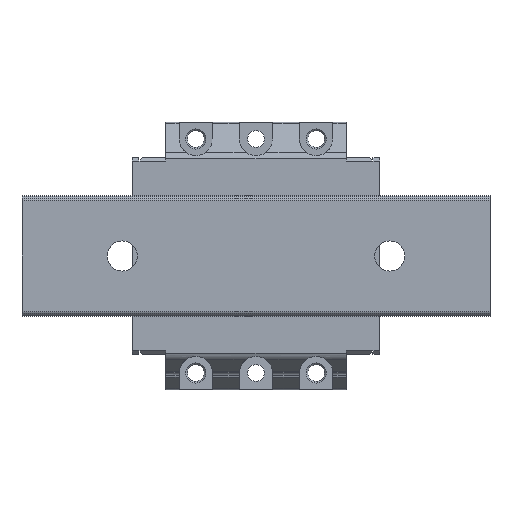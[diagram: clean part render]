
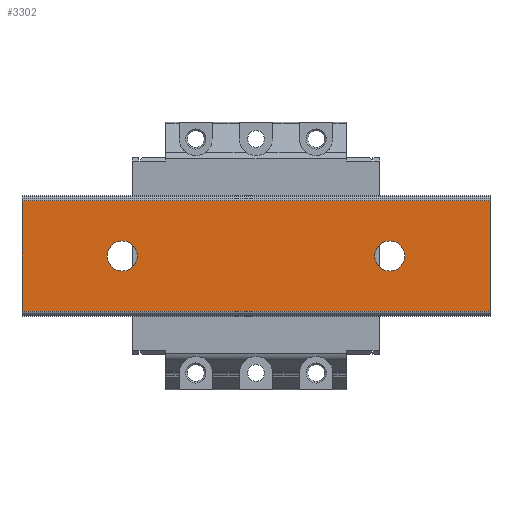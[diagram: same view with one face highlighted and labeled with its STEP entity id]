
A CAD part, front view. The second image highlights one B-rep face of the part: STEP entity #3302.
In plain terms, the highlighted planar face has unit normal (0, -1, 0).
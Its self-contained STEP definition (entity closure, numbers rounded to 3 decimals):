
#95=CIRCLE('',#3527,2.25);
#96=CIRCLE('',#3528,2.25);
#327=ORIENTED_EDGE('',*,*,#1301,.F.);
#328=ORIENTED_EDGE('',*,*,#1302,.F.);
#329=ORIENTED_EDGE('',*,*,#1303,.T.);
#330=ORIENTED_EDGE('',*,*,#1304,.F.);
#331=ORIENTED_EDGE('',*,*,#1305,.F.);
#332=ORIENTED_EDGE('',*,*,#1299,.T.);
#1299=EDGE_CURVE('',#1782,#1781,#2116,.T.);
#1301=EDGE_CURVE('',#1783,#1783,#95,.T.);
#1302=EDGE_CURVE('',#1784,#1784,#96,.T.);
#1303=EDGE_CURVE('',#1781,#1785,#2117,.T.);
#1304=EDGE_CURVE('',#1786,#1785,#2118,.T.);
#1305=EDGE_CURVE('',#1782,#1786,#2119,.T.);
#1781=VERTEX_POINT('',#4918);
#1782=VERTEX_POINT('',#4920);
#1783=VERTEX_POINT('',#4924);
#1784=VERTEX_POINT('',#4926);
#1785=VERTEX_POINT('',#4928);
#1786=VERTEX_POINT('',#4930);
#2116=LINE('',#4919,#2434);
#2117=LINE('',#4927,#2435);
#2118=LINE('',#4929,#2436);
#2119=LINE('',#4931,#2437);
#2434=VECTOR('',#3913,1000.);
#2435=VECTOR('',#3922,1000.);
#2436=VECTOR('',#3923,1000.);
#2437=VECTOR('',#3924,1000.);
#2742=EDGE_LOOP('',(#327));
#2743=EDGE_LOOP('',(#328));
#2744=EDGE_LOOP('',(#329,#330,#331,#332));
#2966=FACE_BOUND('',#2742,.T.);
#2967=FACE_BOUND('',#2743,.T.);
#2968=FACE_BOUND('',#2744,.T.);
#3184=PLANE('',#3526);
#3302=ADVANCED_FACE('',(#2966,#2967,#2968),#3184,.F.);
#3526=AXIS2_PLACEMENT_3D('',#4922,#3916,#3917);
#3527=AXIS2_PLACEMENT_3D('',#4923,#3918,#3919);
#3528=AXIS2_PLACEMENT_3D('',#4925,#3920,#3921);
#3913=DIRECTION('',(-1.,0.,0.));
#3916=DIRECTION('',(0.,1.,0.));
#3917=DIRECTION('',(0.,0.,1.));
#3918=DIRECTION('',(0.,-1.,0.));
#3919=DIRECTION('',(0.,0.,-1.));
#3920=DIRECTION('',(0.,-1.,0.));
#3921=DIRECTION('',(0.,0.,-1.));
#3922=DIRECTION('',(0.,0.,-1.));
#3923=DIRECTION('',(-1.,0.,0.));
#3924=DIRECTION('',(0.,0.,-1.));
#4918=CARTESIAN_POINT('',(-15.,0.,8.256));
#4919=CARTESIAN_POINT('',(55.,0.,8.256));
#4920=CARTESIAN_POINT('',(55.,0.,8.256));
#4922=CARTESIAN_POINT('',(55.,0.,8.256));
#4923=CARTESIAN_POINT('',(40.,0.,0.));
#4924=CARTESIAN_POINT('',(40.,0.,-2.25));
#4925=CARTESIAN_POINT('',(0.,0.,0.));
#4926=CARTESIAN_POINT('',(0.,0.,-2.25));
#4927=CARTESIAN_POINT('',(-15.,0.,8.256));
#4928=CARTESIAN_POINT('',(-15.,0.,-8.256));
#4929=CARTESIAN_POINT('',(55.,0.,-8.256));
#4930=CARTESIAN_POINT('',(55.,0.,-8.256));
#4931=CARTESIAN_POINT('',(55.,0.,8.256));
